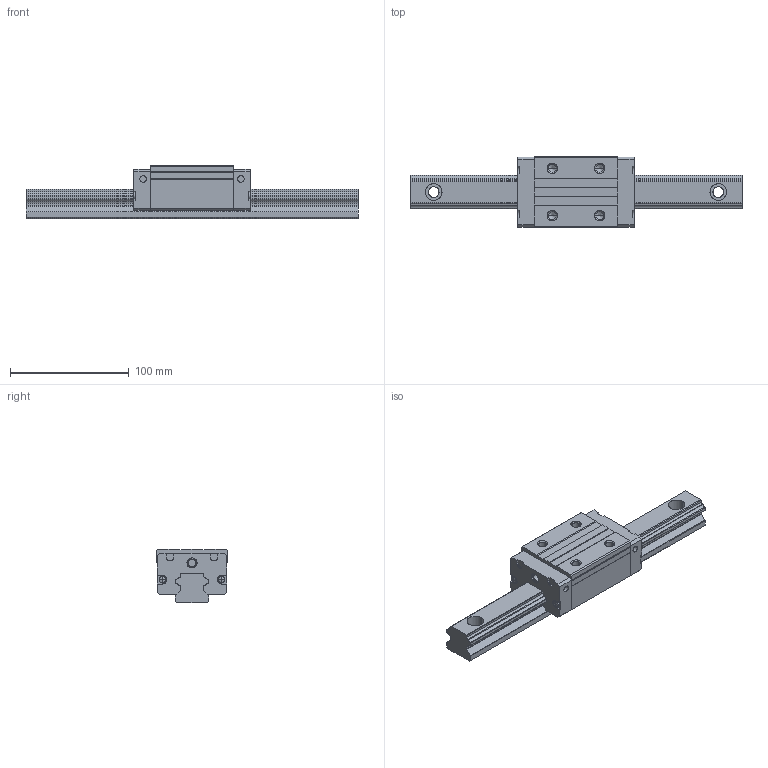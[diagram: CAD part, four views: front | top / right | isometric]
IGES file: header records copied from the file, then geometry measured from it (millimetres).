
Start section: START RECORD GO HERE.
Global section: file name: SBG30_SL.igs; native system: IBM CATIA IGES - CATIA Version 5 Release 16 ; preprocessor: CATIA Version 5 Release 16 ; author: mycom; organization: RD03; date: 20070318.191913; units: millimetre
Bounding box: 280 x 60 x 45 mm (x, y, z)
Surface area: 70994.3 mm2 (no closed solid volume)
Topology: 0 solids, 0 shells, 315 faces, 1678 edges, 1662 vertices
Faces by surface type: revolution 180, plane 135
